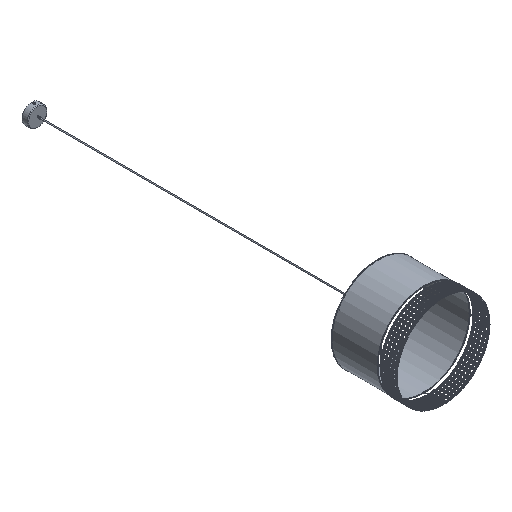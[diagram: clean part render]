
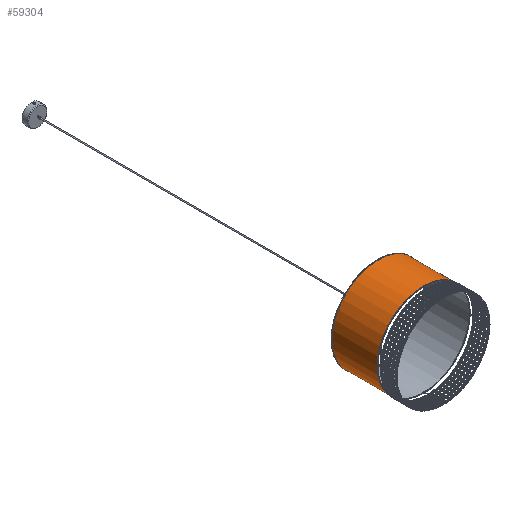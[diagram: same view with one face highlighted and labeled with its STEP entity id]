
A CAD part, isometric view. The second image highlights one B-rep face of the part: STEP entity #59304.
In plain terms, the highlighted cylindrical face has radius 190.989 mm (diameter 381.978 mm), a full revolution.
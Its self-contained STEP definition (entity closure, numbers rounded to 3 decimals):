
#6700=LINE('',#91719,#10994);
#10994=VECTOR('',#70914,190.989);
#14622=CYLINDRICAL_SURFACE('',#64089,190.989);
#16142=FACE_OUTER_BOUND('',#20127,.T.);
#20127=EDGE_LOOP('',(#43583,#43584,#43585,#43586));
#23979=CIRCLE('',#64090,190.989);
#23980=CIRCLE('',#64091,190.989);
#26871=VERTEX_POINT('',#91716);
#26872=VERTEX_POINT('',#91718);
#33140=EDGE_CURVE('',#26871,#26871,#23979,.T.);
#33141=EDGE_CURVE('',#26871,#26872,#6700,.T.);
#33142=EDGE_CURVE('',#26872,#26872,#23980,.T.);
#43583=ORIENTED_EDGE('',*,*,#33140,.F.);
#43584=ORIENTED_EDGE('',*,*,#33141,.T.);
#43585=ORIENTED_EDGE('',*,*,#33142,.T.);
#43586=ORIENTED_EDGE('',*,*,#33141,.F.);
#59304=ADVANCED_FACE('',(#16142),#14622,.T.);
#64089=AXIS2_PLACEMENT_3D('',#91715,#70910,#70911);
#64090=AXIS2_PLACEMENT_3D('',#91717,#70912,#70913);
#64091=AXIS2_PLACEMENT_3D('',#91720,#70915,#70916);
#70910=DIRECTION('center_axis',(0.,-1.,0.));
#70911=DIRECTION('ref_axis',(1.,0.,0.));
#70912=DIRECTION('center_axis',(0.,-1.,0.));
#70913=DIRECTION('ref_axis',(1.,0.,0.));
#70914=DIRECTION('',(0.,1.,0.));
#70915=DIRECTION('center_axis',(0.,-1.,0.));
#70916=DIRECTION('ref_axis',(1.,0.,0.));
#91715=CARTESIAN_POINT('Origin',(0.,175.75,0.));
#91716=CARTESIAN_POINT('',(-190.989,82.,0.));
#91717=CARTESIAN_POINT('Origin',(0.,82.,0.));
#91718=CARTESIAN_POINT('',(-190.989,269.5,0.));
#91719=CARTESIAN_POINT('',(-190.989,175.75,0.));
#91720=CARTESIAN_POINT('Origin',(0.,269.5,0.));
